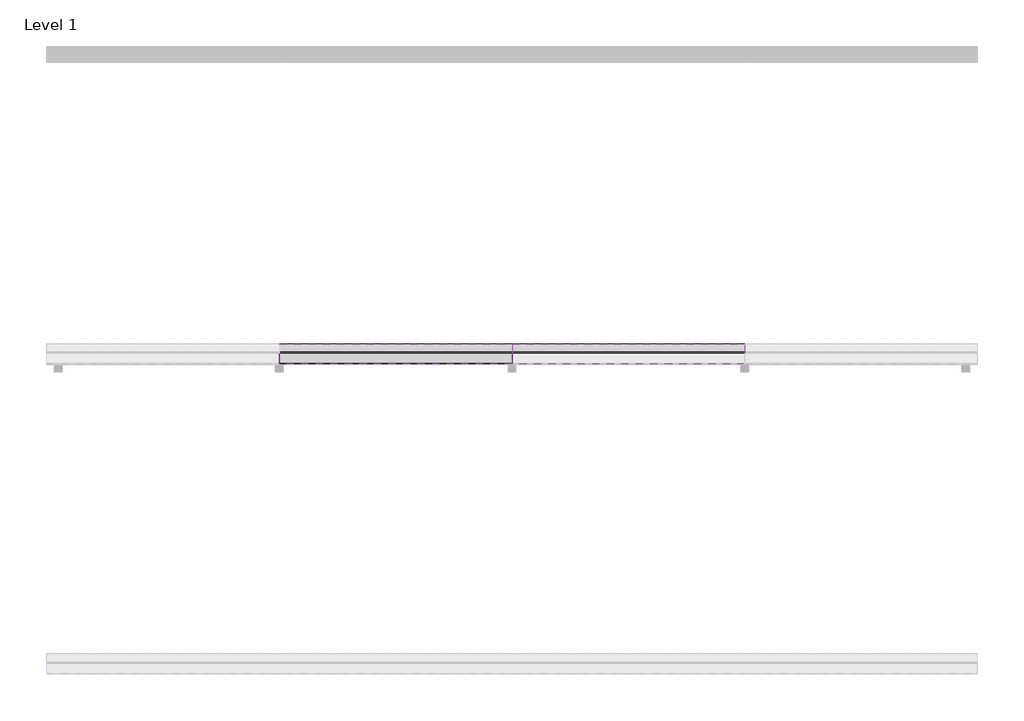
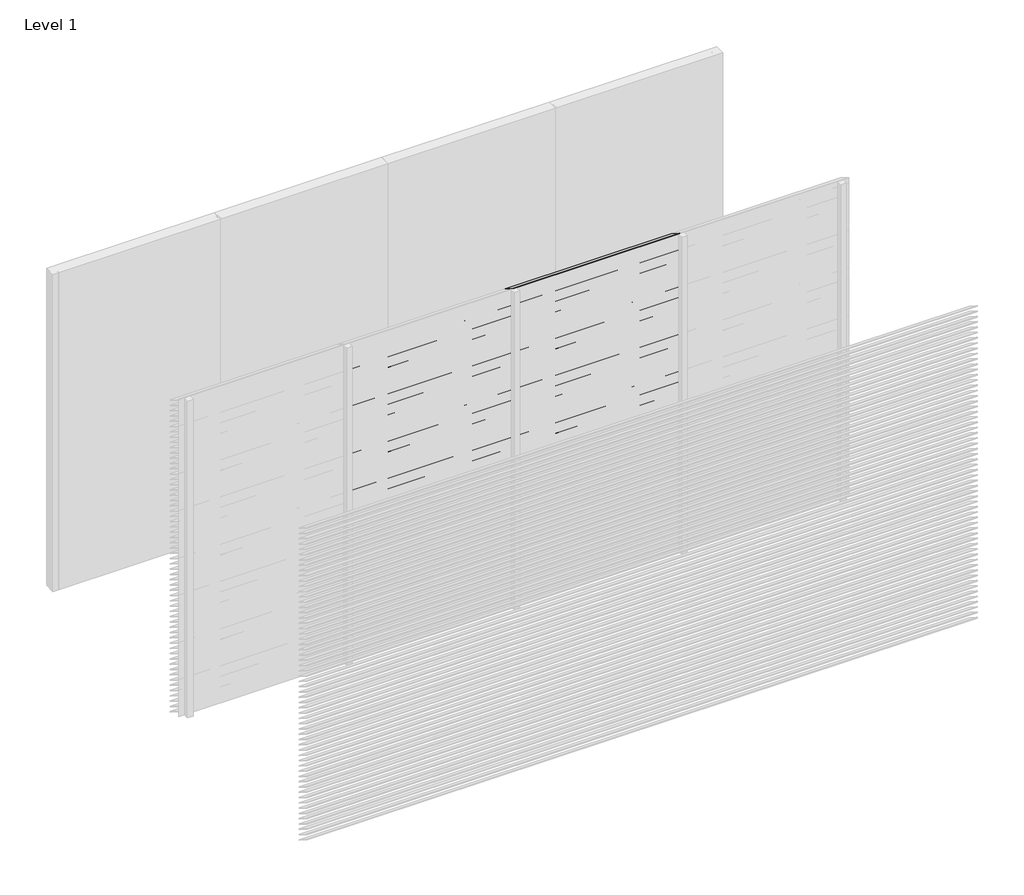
# One storey, part 6 of 13: 95 proxies.
"""IFC4 building model written with IfcOpenShell, lengths in millimetres."""

import ifcopenshell
import ifcopenshell.guid

model = None  # the IFC model being written
_history = None  # IfcOwnerHistory: only IFC2X3 demands one
_inside = {}  # id of a spatial element -> (the spatial element, [elements in it])
_under = {}  # id of a project, library or spatial element -> (it, [spatial elements below it])
_declared = {}  # id of a project -> (the project, [libraries it declares])
_typed = {}  # id of a type object -> (the type object, [elements of that type])
_made_of = {}  # id of a material, layer set ... -> (it, [elements and type objects made of it])


def new_model(schema):
    """Start an empty IFC model of exactly this schema.

    Asked for "IFC4X3", IfcOpenShell would pick the latest addendum, in which some entities
    have other attributes; the version numbers below select the first issue.
    IFC2X3 requires an IfcOwnerHistory on every rooted entity: one is made here for all.
    """
    global model, _history
    if schema == "IFC4X3":
        model = ifcopenshell.file(schema_version=(4, 3, 0, 0))
    else:
        model = ifcopenshell.file(schema=schema)
    _inside.clear()
    _under.clear()
    _declared.clear()
    _typed.clear()
    _made_of.clear()
    _history = None
    if model.schema == "IFC2X3":
        org = make("IfcOrganization", Name="unknown")
        user = make(
            "IfcPersonAndOrganization",
            ThePerson=make("IfcPerson", FamilyName="unknown"),
            TheOrganization=org,
        )
        app = make(
            "IfcApplication",
            ApplicationDeveloper=org,
            Version="unknown",
            ApplicationFullName="unknown",
            ApplicationIdentifier="unknown",
        )
        _history = make(
            "IfcOwnerHistory",
            OwningUser=user,
            OwningApplication=app,
            ChangeAction="ADDED",
            CreationDate=0,
        )
    return model


def make(cls, **values):
    """One entity of the class cls with the attributes given. An attribute that is None is left unset."""
    return model.create_entity(
        cls, **{name: value for name, value in values.items() if value is not None}
    )


def rooted(cls, **values):
    """An entity with a GlobalId (a new one), such as an element, a storey or a relation."""
    return make(cls, GlobalId=ifcopenshell.guid.new(), OwnerHistory=_history, **values)


def si_unit(unit_type, name, prefix=None):
    """IfcSIUnit, for example si_unit("LENGTHUNIT", "METRE", prefix="MILLI")."""
    return make("IfcSIUnit", UnitType=unit_type, Prefix=prefix, Name=name)


def assignment(units):
    """IfcUnitAssignment: the units of a project."""
    return None if units is None else make("IfcUnitAssignment", Units=units)


def point(xyz):
    """IfcCartesianPoint."""
    return None if xyz is None else make("IfcCartesianPoint", Coordinates=xyz)


def direction(xyz):
    """IfcDirection."""
    return None if xyz is None else make("IfcDirection", DirectionRatios=xyz)


def frame(location, z_axis=None, x_axis=None):
    """IfcAxis2Placement3D, a coordinate frame: its origin and axes. An axis left out is left unset."""
    return make(
        "IfcAxis2Placement3D",
        Location=point(location),
        Axis=direction(z_axis),
        RefDirection=direction(x_axis),
    )


def origin():
    """The frame at (0, 0, 0) with its axes left unset."""
    return frame((0.0, 0.0, 0.0))


def place(relative_to, where):
    """IfcLocalPlacement: puts the frame where relative to a parent placement (None: the world)."""
    return make(
        "IfcLocalPlacement", PlacementRelTo=relative_to, RelativePlacement=where
    )


def context(
    kind, dimensions, precision=None, world=None, true_north=None, identifier=None
):
    """IfcGeometricRepresentationContext, for example the 3D "Model" context."""
    return make(
        "IfcGeometricRepresentationContext",
        ContextIdentifier=identifier,
        ContextType=kind,
        CoordinateSpaceDimension=dimensions,
        Precision=precision,
        WorldCoordinateSystem=world,
        TrueNorth=true_north,
    )


def project(units=None, contexts=None):
    """IfcProject with its units and contexts."""
    return rooted(
        "IfcProject",
        Name="project",
        RepresentationContexts=contexts,
        UnitsInContext=assignment(units),
    )


def spatial(cls, under=None, at=None, **own):
    """A site, building, storey or space (cls), placed at a placement, below another one or the project."""
    s = rooted(cls, ObjectPlacement=at, **own)
    if under is not None:
        _under.setdefault(under.id(), (under, []))[1].append(s)
    return s


def polyline(points):
    """IfcPolyline through the points."""
    return make("IfcPolyline", Points=[point(p) for p in points])


def outline(outer, holes=None, kind="AREA"):
    """IfcArbitraryClosedProfileDef: a profile drawn as a closed curve; with holes, ...WithVoids."""
    if holes is None:
        return make("IfcArbitraryClosedProfileDef", ProfileType=kind, OuterCurve=outer)
    return make(
        "IfcArbitraryProfileDefWithVoids",
        ProfileType=kind,
        OuterCurve=outer,
        InnerCurves=holes,
    )


def extrude(swept, where, along, depth):
    """IfcExtrudedAreaSolid: the profile swept, set in the frame where, extruded along a direction by depth."""
    return make(
        "IfcExtrudedAreaSolid",
        SweptArea=swept,
        Position=where,
        ExtrudedDirection=direction(along),
        Depth=depth,
    )


def shape(context_of_items, identifier, shape_type, items):
    """IfcShapeRepresentation: the items that make up one representation, for example the "Body"."""
    return make(
        "IfcShapeRepresentation",
        ContextOfItems=context_of_items,
        RepresentationIdentifier=identifier,
        RepresentationType=shape_type,
        Items=items,
    )


def made_of(thing, what):
    """Note that an element or type object is made of a material, layer set ...; save() writes the relation."""
    if what is not None:
        _made_of.setdefault(what.id(), (what, []))[1].append(thing)
    return thing


def element(
    cls,
    number,
    at=None,
    inside=None,
    cuts=None,
    type_object=None,
    material=None,
    context=None,
    identifier="Body",
    shape_type=None,
    held_by="IfcProductDefinitionShape",
    body=None,
    shapes=None,
    **own,
):
    """One element of the class cls, such as IfcWall. Its Tag is "e" and its number.

    at: its placement. inside: the storey or other place that contains it. cuts: it is an
    opening in that element (IfcRelVoidsElement). A single representation is given by context,
    identifier, shape_type and body (its items); several are given by shapes. held_by: the class
    of the entity that holds the representations. save() writes the other relations.
    """
    e = rooted(cls, Tag="e%d" % number, ObjectPlacement=at, **own)
    if body is not None:
        shapes = [shape(context, identifier, shape_type, body)]
    if shapes is not None:
        e.Representation = make(held_by, Representations=shapes)
    if inside is not None:
        _inside.setdefault(inside.id(), (inside, []))[1].append(e)
    if cuts is not None:
        rooted(
            "IfcRelVoidsElement", RelatingBuildingElement=cuts, RelatedOpeningElement=e
        )
    if type_object is not None:
        _typed.setdefault(type_object.id(), (type_object, []))[1].append(e)
    return made_of(e, material)


def aggregate(whole, parts):
    """IfcRelAggregates: a whole, such as a stair, and the parts it consists of."""
    return rooted("IfcRelAggregates", RelatingObject=whole, RelatedObjects=parts)


def save(model, path):
    """Write the relations noted so far, then the file.

    IfcRelAggregates (storeys below a building ...), IfcRelContainedInSpatialStructure (elements
    in a storey), IfcRelDefinesByType, IfcRelAssociatesMaterial and IfcRelDeclares: one each for
    every whole, place, type object, material and project.
    """
    for whole, parts in _under.values():
        aggregate(whole, parts)
    for where, things in _inside.values():
        rooted(
            "IfcRelContainedInSpatialStructure",
            RelatedElements=things,
            RelatingStructure=where,
        )
    for kind, things in _typed.values():
        rooted("IfcRelDefinesByType", RelatedObjects=things, RelatingType=kind)
    for what, things in _made_of.values():
        rooted("IfcRelAssociatesMaterial", RelatedObjects=things, RelatingMaterial=what)
    for by, libraries in _declared.values():
        rooted("IfcRelDeclares", RelatingContext=by, RelatedDefinitions=libraries)
    model.write(path)


model = new_model("IFC4")

# Units and contexts
model_context = context("Model", 3, world=origin())
ifc_project = project(units=[si_unit("LENGTHUNIT", "METRE", prefix="MILLI")], contexts=[model_context])

# Site, building, storey
site = spatial("IfcSite", under=ifc_project)
building = spatial("IfcBuilding", under=site)
storey = spatial("IfcBuildingStorey", under=building, Name="Level 1", Elevation=0.0)

# Proxies
placement = place(None, origin())
element("IfcBuildingElementProxy", 1, Name="Wall Sweeps", at=placement, inside=storey, context=model_context, shape_type="SweptSolid", body=[
    extrude(outline(polyline([(-11995.0, 2950.0), (-11995.0, 2948.0), (-11868.0, 2869.0), (-11868.0, 2863.0), (-11997.0, 2943.2440945), (-11997.0, 2950.0), (-11995.0, 2950.0)])), frame((1500.0, 0.0, 0.0), z_axis=(1.0, 0.0, 0.0), x_axis=(0.0, 1.0, 0.0)), (0.0, 0.0, 1.0), 1500.0),
])
element("IfcBuildingElementProxy", 2, Name="Wall Sweeps", at=placement, inside=storey, context=model_context, shape_type="SweptSolid", body=[
    extrude(outline(polyline([(-11995.0, 2900.0), (-11995.0, 2898.0), (-11868.0, 2819.0), (-11868.0, 2813.0), (-11997.0, 2893.2440945), (-11997.0, 2900.0), (-11995.0, 2900.0)])), frame((1500.0, 0.0, 0.0), z_axis=(1.0, 0.0, 0.0), x_axis=(0.0, 1.0, 0.0)), (0.0, 0.0, 1.0), 1500.0),
])
element("IfcBuildingElementProxy", 3, Name="Wall Sweeps", at=placement, inside=storey, context=model_context, shape_type="SweptSolid", body=[
    extrude(outline(polyline([(-11995.0, 2850.0), (-11995.0, 2848.0), (-11868.0, 2769.0), (-11868.0, 2763.0), (-11997.0, 2843.2440945), (-11997.0, 2850.0), (-11995.0, 2850.0)])), frame((1500.0, 0.0, 0.0), z_axis=(1.0, 0.0, 0.0), x_axis=(0.0, 1.0, 0.0)), (0.0, 0.0, 1.0), 1500.0),
])
element("IfcBuildingElementProxy", 4, Name="Wall Sweeps", at=placement, inside=storey, context=model_context, shape_type="SweptSolid", body=[
    extrude(outline(polyline([(-11995.0, 2800.0), (-11995.0, 2798.0), (-11868.0, 2719.0), (-11868.0, 2713.0), (-11997.0, 2793.2440945), (-11997.0, 2800.0), (-11995.0, 2800.0)])), frame((1500.0, 0.0, 0.0), z_axis=(1.0, 0.0, 0.0), x_axis=(0.0, 1.0, 0.0)), (0.0, 0.0, 1.0), 1500.0),
])
element("IfcBuildingElementProxy", 5, Name="Wall Sweeps", at=placement, inside=storey, context=model_context, shape_type="SweptSolid", body=[
    extrude(outline(polyline([(-11995.0, 2750.0), (-11995.0, 2748.0), (-11868.0, 2669.0), (-11868.0, 2663.0), (-11997.0, 2743.2440945), (-11997.0, 2750.0), (-11995.0, 2750.0)])), frame((1500.0, 0.0, 0.0), z_axis=(1.0, 0.0, 0.0), x_axis=(0.0, 1.0, 0.0)), (0.0, 0.0, 1.0), 1500.0),
])
element("IfcBuildingElementProxy", 6, Name="Wall Sweeps", at=placement, inside=storey, context=model_context, shape_type="SweptSolid", body=[
    extrude(outline(polyline([(-11995.0, 2700.0), (-11995.0, 2698.0), (-11868.0, 2619.0), (-11868.0, 2613.0), (-11997.0, 2693.2440945), (-11997.0, 2700.0), (-11995.0, 2700.0)])), frame((1500.0, 0.0, 0.0), z_axis=(1.0, 0.0, 0.0), x_axis=(0.0, 1.0, 0.0)), (0.0, 0.0, 1.0), 1500.0),
])
element("IfcBuildingElementProxy", 7, Name="Wall Sweeps", at=placement, inside=storey, context=model_context, shape_type="SweptSolid", body=[
    extrude(outline(polyline([(-11995.0, 2650.0), (-11995.0, 2648.0), (-11868.0, 2569.0), (-11868.0, 2563.0), (-11997.0, 2643.2440945), (-11997.0, 2650.0), (-11995.0, 2650.0)])), frame((1500.0, 0.0, 0.0), z_axis=(1.0, 0.0, 0.0), x_axis=(0.0, 1.0, 0.0)), (0.0, 0.0, 1.0), 1500.0),
])
element("IfcBuildingElementProxy", 8, Name="Wall Sweeps", at=placement, inside=storey, context=model_context, shape_type="SweptSolid", body=[
    extrude(outline(polyline([(-11995.0, 2600.0), (-11995.0, 2598.0), (-11868.0, 2519.0), (-11868.0, 2513.0), (-11997.0, 2593.2440945), (-11997.0, 2600.0), (-11995.0, 2600.0)])), frame((1500.0, 0.0, 0.0), z_axis=(1.0, 0.0, 0.0), x_axis=(0.0, 1.0, 0.0)), (0.0, 0.0, 1.0), 1500.0),
])
element("IfcBuildingElementProxy", 9, Name="Wall Sweeps", at=placement, inside=storey, context=model_context, shape_type="SweptSolid", body=[
    extrude(outline(polyline([(-11995.0, 2550.0), (-11995.0, 2548.0), (-11868.0, 2469.0), (-11868.0, 2463.0), (-11997.0, 2543.2440945), (-11997.0, 2550.0), (-11995.0, 2550.0)])), frame((1500.0, 0.0, 0.0), z_axis=(1.0, 0.0, 0.0), x_axis=(0.0, 1.0, 0.0)), (0.0, 0.0, 1.0), 1500.0),
])
element("IfcBuildingElementProxy", 10, Name="Wall Sweeps", at=placement, inside=storey, context=model_context, shape_type="SweptSolid", body=[
    extrude(outline(polyline([(-11995.0, 2500.0), (-11995.0, 2498.0), (-11868.0, 2419.0), (-11868.0, 2413.0), (-11997.0, 2493.2440945), (-11997.0, 2500.0), (-11995.0, 2500.0)])), frame((1500.0, 0.0, 0.0), z_axis=(1.0, 0.0, 0.0), x_axis=(0.0, 1.0, 0.0)), (0.0, 0.0, 1.0), 1500.0),
])
element("IfcBuildingElementProxy", 11, Name="Wall Sweeps", at=placement, inside=storey, context=model_context, shape_type="SweptSolid", body=[
    extrude(outline(polyline([(-11995.0, 2450.0), (-11995.0, 2448.0), (-11868.0, 2369.0), (-11868.0, 2363.0), (-11997.0, 2443.2440945), (-11997.0, 2450.0), (-11995.0, 2450.0)])), frame((1500.0, 0.0, 0.0), z_axis=(1.0, 0.0, 0.0), x_axis=(0.0, 1.0, 0.0)), (0.0, 0.0, 1.0), 1500.0),
])
element("IfcBuildingElementProxy", 12, Name="Wall Sweeps", at=placement, inside=storey, context=model_context, shape_type="SweptSolid", body=[
    extrude(outline(polyline([(-11995.0, 2400.0), (-11995.0, 2398.0), (-11868.0, 2319.0), (-11868.0, 2313.0), (-11997.0, 2393.2440945), (-11997.0, 2400.0), (-11995.0, 2400.0)])), frame((1500.0, 0.0, 0.0), z_axis=(1.0, 0.0, 0.0), x_axis=(0.0, 1.0, 0.0)), (0.0, 0.0, 1.0), 1500.0),
])
element("IfcBuildingElementProxy", 13, Name="Wall Sweeps", at=placement, inside=storey, context=model_context, shape_type="SweptSolid", body=[
    extrude(outline(polyline([(-11995.0, 2350.0), (-11995.0, 2348.0), (-11868.0, 2269.0), (-11868.0, 2263.0), (-11997.0, 2343.2440945), (-11997.0, 2350.0), (-11995.0, 2350.0)])), frame((1500.0, 0.0, 0.0), z_axis=(1.0, 0.0, 0.0), x_axis=(0.0, 1.0, 0.0)), (0.0, 0.0, 1.0), 1500.0),
])
element("IfcBuildingElementProxy", 14, Name="Wall Sweeps", at=placement, inside=storey, context=model_context, shape_type="SweptSolid", body=[
    extrude(outline(polyline([(-11995.0, 2300.0), (-11995.0, 2298.0), (-11868.0, 2219.0), (-11868.0, 2213.0), (-11997.0, 2293.2440945), (-11997.0, 2300.0), (-11995.0, 2300.0)])), frame((1500.0, 0.0, 0.0), z_axis=(1.0, 0.0, 0.0), x_axis=(0.0, 1.0, 0.0)), (0.0, 0.0, 1.0), 1500.0),
])
element("IfcBuildingElementProxy", 15, Name="Wall Sweeps", at=placement, inside=storey, context=model_context, shape_type="SweptSolid", body=[
    extrude(outline(polyline([(-11995.0, 2250.0), (-11995.0, 2248.0), (-11868.0, 2169.0), (-11868.0, 2163.0), (-11997.0, 2243.2440945), (-11997.0, 2250.0), (-11995.0, 2250.0)])), frame((1500.0, 0.0, 0.0), z_axis=(1.0, 0.0, 0.0), x_axis=(0.0, 1.0, 0.0)), (0.0, 0.0, 1.0), 1500.0),
])
element("IfcBuildingElementProxy", 16, Name="Wall Sweeps", at=placement, inside=storey, context=model_context, shape_type="SweptSolid", body=[
    extrude(outline(polyline([(-11995.0, 2200.0), (-11995.0, 2198.0), (-11868.0, 2119.0), (-11868.0, 2113.0), (-11997.0, 2193.2440945), (-11997.0, 2200.0), (-11995.0, 2200.0)])), frame((1500.0, 0.0, 0.0), z_axis=(1.0, 0.0, 0.0), x_axis=(0.0, 1.0, 0.0)), (0.0, 0.0, 1.0), 1500.0),
])
element("IfcBuildingElementProxy", 17, Name="Wall Sweeps", at=placement, inside=storey, context=model_context, shape_type="SweptSolid", body=[
    extrude(outline(polyline([(-11995.0, 2150.0), (-11995.0, 2148.0), (-11868.0, 2069.0), (-11868.0, 2063.0), (-11997.0, 2143.2440945), (-11997.0, 2150.0), (-11995.0, 2150.0)])), frame((1500.0, 0.0, 0.0), z_axis=(1.0, 0.0, 0.0), x_axis=(0.0, 1.0, 0.0)), (0.0, 0.0, 1.0), 1500.0),
])
element("IfcBuildingElementProxy", 18, Name="Wall Sweeps", at=placement, inside=storey, context=model_context, shape_type="SweptSolid", body=[
    extrude(outline(polyline([(-11995.0, 2100.0), (-11995.0, 2098.0), (-11868.0, 2019.0), (-11868.0, 2013.0), (-11997.0, 2093.2440945), (-11997.0, 2100.0), (-11995.0, 2100.0)])), frame((1500.0, 0.0, 0.0), z_axis=(1.0, 0.0, 0.0), x_axis=(0.0, 1.0, 0.0)), (0.0, 0.0, 1.0), 1500.0),
])
element("IfcBuildingElementProxy", 19, Name="Wall Sweeps", at=placement, inside=storey, context=model_context, shape_type="SweptSolid", body=[
    extrude(outline(polyline([(-11995.0, 2050.0), (-11995.0, 2048.0), (-11868.0, 1969.0), (-11868.0, 1963.0), (-11997.0, 2043.2440945), (-11997.0, 2050.0), (-11995.0, 2050.0)])), frame((1500.0, 0.0, 0.0), z_axis=(1.0, 0.0, 0.0), x_axis=(0.0, 1.0, 0.0)), (0.0, 0.0, 1.0), 1500.0),
])
element("IfcBuildingElementProxy", 20, Name="Wall Sweeps", at=placement, inside=storey, context=model_context, shape_type="SweptSolid", body=[
    extrude(outline(polyline([(-11995.0, 2000.0), (-11995.0, 1998.0), (-11868.0, 1919.0), (-11868.0, 1913.0), (-11997.0, 1993.2440945), (-11997.0, 2000.0), (-11995.0, 2000.0)])), frame((1500.0, 0.0, 0.0), z_axis=(1.0, 0.0, 0.0), x_axis=(0.0, 1.0, 0.0)), (0.0, 0.0, 1.0), 1500.0),
])
element("IfcBuildingElementProxy", 21, Name="Wall Sweeps", at=placement, inside=storey, context=model_context, shape_type="SweptSolid", body=[
    extrude(outline(polyline([(-11995.0, 1950.0), (-11995.0, 1948.0), (-11868.0, 1869.0), (-11868.0, 1863.0), (-11997.0, 1943.2440945), (-11997.0, 1950.0), (-11995.0, 1950.0)])), frame((1500.0, 0.0, 0.0), z_axis=(1.0, 0.0, 0.0), x_axis=(0.0, 1.0, 0.0)), (0.0, 0.0, 1.0), 1500.0),
])
element("IfcBuildingElementProxy", 22, Name="Wall Sweeps", at=placement, inside=storey, context=model_context, shape_type="SweptSolid", body=[
    extrude(outline(polyline([(-11995.0, 1900.0), (-11995.0, 1898.0), (-11868.0, 1819.0), (-11868.0, 1813.0), (-11997.0, 1893.2440945), (-11997.0, 1900.0), (-11995.0, 1900.0)])), frame((1500.0, 0.0, 0.0), z_axis=(1.0, 0.0, 0.0), x_axis=(0.0, 1.0, 0.0)), (0.0, 0.0, 1.0), 1500.0),
])
element("IfcBuildingElementProxy", 23, Name="Wall Sweeps", at=placement, inside=storey, context=model_context, shape_type="SweptSolid", body=[
    extrude(outline(polyline([(-11995.0, 1850.0), (-11995.0, 1848.0), (-11868.0, 1769.0), (-11868.0, 1763.0), (-11997.0, 1843.2440945), (-11997.0, 1850.0), (-11995.0, 1850.0)])), frame((1500.0, 0.0, 0.0), z_axis=(1.0, 0.0, 0.0), x_axis=(0.0, 1.0, 0.0)), (0.0, 0.0, 1.0), 1500.0),
])
element("IfcBuildingElementProxy", 24, Name="Wall Sweeps", at=placement, inside=storey, context=model_context, shape_type="SweptSolid", body=[
    extrude(outline(polyline([(-11995.0, 1800.0), (-11995.0, 1798.0), (-11868.0, 1719.0), (-11868.0, 1713.0), (-11997.0, 1793.2440945), (-11997.0, 1800.0), (-11995.0, 1800.0)])), frame((1500.0, 0.0, 0.0), z_axis=(1.0, 0.0, 0.0), x_axis=(0.0, 1.0, 0.0)), (0.0, 0.0, 1.0), 1500.0),
])
element("IfcBuildingElementProxy", 25, Name="Wall Sweeps", at=placement, inside=storey, context=model_context, shape_type="SweptSolid", body=[
    extrude(outline(polyline([(-11995.0, 1750.0), (-11995.0, 1748.0), (-11868.0, 1669.0), (-11868.0, 1663.0), (-11997.0, 1743.2440945), (-11997.0, 1750.0), (-11995.0, 1750.0)])), frame((1500.0, 0.0, 0.0), z_axis=(1.0, 0.0, 0.0), x_axis=(0.0, 1.0, 0.0)), (0.0, 0.0, 1.0), 1500.0),
])
element("IfcBuildingElementProxy", 26, Name="Wall Sweeps", at=placement, inside=storey, context=model_context, shape_type="SweptSolid", body=[
    extrude(outline(polyline([(-11995.0, 1700.0), (-11995.0, 1698.0), (-11868.0, 1619.0), (-11868.0, 1613.0), (-11997.0, 1693.2440945), (-11997.0, 1700.0), (-11995.0, 1700.0)])), frame((1500.0, 0.0, 0.0), z_axis=(1.0, 0.0, 0.0), x_axis=(0.0, 1.0, 0.0)), (0.0, 0.0, 1.0), 1500.0),
])
element("IfcBuildingElementProxy", 27, Name="Wall Sweeps", at=placement, inside=storey, context=model_context, shape_type="SweptSolid", body=[
    extrude(outline(polyline([(-11995.0, 1650.0), (-11995.0, 1648.0), (-11868.0, 1569.0), (-11868.0, 1563.0), (-11997.0, 1643.2440945), (-11997.0, 1650.0), (-11995.0, 1650.0)])), frame((1500.0, 0.0, 0.0), z_axis=(1.0, 0.0, 0.0), x_axis=(0.0, 1.0, 0.0)), (0.0, 0.0, 1.0), 1500.0),
])
element("IfcBuildingElementProxy", 28, Name="Wall Sweeps", at=placement, inside=storey, context=model_context, shape_type="SweptSolid", body=[
    extrude(outline(polyline([(-11995.0, 1600.0), (-11995.0, 1598.0), (-11868.0, 1519.0), (-11868.0, 1513.0), (-11997.0, 1593.2440945), (-11997.0, 1600.0), (-11995.0, 1600.0)])), frame((1500.0, 0.0, 0.0), z_axis=(1.0, 0.0, 0.0), x_axis=(0.0, 1.0, 0.0)), (0.0, 0.0, 1.0), 1500.0),
])
element("IfcBuildingElementProxy", 29, Name="Wall Sweeps", at=placement, inside=storey, context=model_context, shape_type="SweptSolid", body=[
    extrude(outline(polyline([(-11995.0, 1550.0), (-11995.0, 1548.0), (-11868.0, 1469.0), (-11868.0, 1463.0), (-11997.0, 1543.2440945), (-11997.0, 1550.0), (-11995.0, 1550.0)])), frame((1500.0, 0.0, 0.0), z_axis=(1.0, 0.0, 0.0), x_axis=(0.0, 1.0, 0.0)), (0.0, 0.0, 1.0), 1500.0),
])
element("IfcBuildingElementProxy", 30, Name="Wall Sweeps", at=placement, inside=storey, context=model_context, shape_type="SweptSolid", body=[
    extrude(outline(polyline([(-11995.0, 1500.0), (-11995.0, 1498.0), (-11868.0, 1419.0), (-11868.0, 1413.0), (-11997.0, 1493.2440945), (-11997.0, 1500.0), (-11995.0, 1500.0)])), frame((1500.0, 0.0, 0.0), z_axis=(1.0, 0.0, 0.0), x_axis=(0.0, 1.0, 0.0)), (0.0, 0.0, 1.0), 1500.0),
])
element("IfcBuildingElementProxy", 31, Name="Wall Sweeps", at=placement, inside=storey, context=model_context, shape_type="SweptSolid", body=[
    extrude(outline(polyline([(-11995.0, 1450.0), (-11995.0, 1448.0), (-11868.0, 1369.0), (-11868.0, 1363.0), (-11997.0, 1443.2440945), (-11997.0, 1450.0), (-11995.0, 1450.0)])), frame((1500.0, 0.0, 0.0), z_axis=(1.0, 0.0, 0.0), x_axis=(0.0, 1.0, 0.0)), (0.0, 0.0, 1.0), 1500.0),
])
element("IfcBuildingElementProxy", 32, Name="Wall Sweeps", at=placement, inside=storey, context=model_context, shape_type="SweptSolid", body=[
    extrude(outline(polyline([(-11995.0, 1400.0), (-11995.0, 1398.0), (-11868.0, 1319.0), (-11868.0, 1313.0), (-11997.0, 1393.2440945), (-11997.0, 1400.0), (-11995.0, 1400.0)])), frame((1500.0, 0.0, 0.0), z_axis=(1.0, 0.0, 0.0), x_axis=(0.0, 1.0, 0.0)), (0.0, 0.0, 1.0), 1500.0),
])
element("IfcBuildingElementProxy", 33, Name="Wall Sweeps", at=placement, inside=storey, context=model_context, shape_type="SweptSolid", body=[
    extrude(outline(polyline([(-11995.0, 1350.0), (-11995.0, 1348.0), (-11868.0, 1269.0), (-11868.0, 1263.0), (-11997.0, 1343.2440945), (-11997.0, 1350.0), (-11995.0, 1350.0)])), frame((1500.0, 0.0, 0.0), z_axis=(1.0, 0.0, 0.0), x_axis=(0.0, 1.0, 0.0)), (0.0, 0.0, 1.0), 1500.0),
])
element("IfcBuildingElementProxy", 34, Name="Wall Sweeps", at=placement, inside=storey, context=model_context, shape_type="SweptSolid", body=[
    extrude(outline(polyline([(-11995.0, 1300.0), (-11995.0, 1298.0), (-11868.0, 1219.0), (-11868.0, 1213.0), (-11997.0, 1293.2440945), (-11997.0, 1300.0), (-11995.0, 1300.0)])), frame((1500.0, 0.0, 0.0), z_axis=(1.0, 0.0, 0.0), x_axis=(0.0, 1.0, 0.0)), (0.0, 0.0, 1.0), 1500.0),
])
element("IfcBuildingElementProxy", 35, Name="Wall Sweeps", at=placement, inside=storey, context=model_context, shape_type="SweptSolid", body=[
    extrude(outline(polyline([(-11995.0, 1250.0), (-11995.0, 1248.0), (-11868.0, 1169.0), (-11868.0, 1163.0), (-11997.0, 1243.2440945), (-11997.0, 1250.0), (-11995.0, 1250.0)])), frame((1500.0, 0.0, 0.0), z_axis=(1.0, 0.0, 0.0), x_axis=(0.0, 1.0, 0.0)), (0.0, 0.0, 1.0), 1500.0),
])
element("IfcBuildingElementProxy", 36, Name="Wall Sweeps", at=placement, inside=storey, context=model_context, shape_type="SweptSolid", body=[
    extrude(outline(polyline([(-11995.0, 1200.0), (-11995.0, 1198.0), (-11868.0, 1119.0), (-11868.0, 1113.0), (-11997.0, 1193.2440945), (-11997.0, 1200.0), (-11995.0, 1200.0)])), frame((1500.0, 0.0, 0.0), z_axis=(1.0, 0.0, 0.0), x_axis=(0.0, 1.0, 0.0)), (0.0, 0.0, 1.0), 1500.0),
])
element("IfcBuildingElementProxy", 37, Name="Wall Sweeps", at=placement, inside=storey, context=model_context, shape_type="SweptSolid", body=[
    extrude(outline(polyline([(-11995.0, 1150.0), (-11995.0, 1148.0), (-11868.0, 1069.0), (-11868.0, 1063.0), (-11997.0, 1143.2440945), (-11997.0, 1150.0), (-11995.0, 1150.0)])), frame((1500.0, 0.0, 0.0), z_axis=(1.0, 0.0, 0.0), x_axis=(0.0, 1.0, 0.0)), (0.0, 0.0, 1.0), 1500.0),
])
element("IfcBuildingElementProxy", 38, Name="Wall Sweeps", at=placement, inside=storey, context=model_context, shape_type="SweptSolid", body=[
    extrude(outline(polyline([(-11995.0, 1100.0), (-11995.0, 1098.0), (-11868.0, 1019.0), (-11868.0, 1013.0), (-11997.0, 1093.2440945), (-11997.0, 1100.0), (-11995.0, 1100.0)])), frame((1500.0, 0.0, 0.0), z_axis=(1.0, 0.0, 0.0), x_axis=(0.0, 1.0, 0.0)), (0.0, 0.0, 1.0), 1500.0),
])
element("IfcBuildingElementProxy", 39, Name="Wall Sweeps", at=placement, inside=storey, context=model_context, shape_type="SweptSolid", body=[
    extrude(outline(polyline([(-11995.0, 1050.0), (-11995.0, 1048.0), (-11868.0, 969.0), (-11868.0, 963.0), (-11997.0, 1043.2440945), (-11997.0, 1050.0), (-11995.0, 1050.0)])), frame((1500.0, 0.0, 0.0), z_axis=(1.0, 0.0, 0.0), x_axis=(0.0, 1.0, 0.0)), (0.0, 0.0, 1.0), 1500.0),
])
element("IfcBuildingElementProxy", 40, Name="Wall Sweeps", at=placement, inside=storey, context=model_context, shape_type="SweptSolid", body=[
    extrude(outline(polyline([(-11995.0, 1000.0), (-11995.0, 998.0), (-11868.0, 919.0), (-11868.0, 913.0), (-11997.0, 993.2440945), (-11997.0, 1000.0), (-11995.0, 1000.0)])), frame((1500.0, 0.0, 0.0), z_axis=(1.0, 0.0, 0.0), x_axis=(0.0, 1.0, 0.0)), (0.0, 0.0, 1.0), 1500.0),
])
element("IfcBuildingElementProxy", 41, Name="Wall Sweeps", at=placement, inside=storey, context=model_context, shape_type="SweptSolid", body=[
    extrude(outline(polyline([(-11995.0, 950.0), (-11995.0, 948.0), (-11868.0, 869.0), (-11868.0, 863.0), (-11997.0, 943.2440945), (-11997.0, 950.0), (-11995.0, 950.0)])), frame((1500.0, 0.0, 0.0), z_axis=(1.0, 0.0, 0.0), x_axis=(0.0, 1.0, 0.0)), (0.0, 0.0, 1.0), 1500.0),
])
element("IfcBuildingElementProxy", 42, Name="Wall Sweeps", at=placement, inside=storey, context=model_context, shape_type="SweptSolid", body=[
    extrude(outline(polyline([(-11995.0, 900.0), (-11995.0, 898.0), (-11868.0, 819.0), (-11868.0, 813.0), (-11997.0, 893.2440945), (-11997.0, 900.0), (-11995.0, 900.0)])), frame((1500.0, 0.0, 0.0), z_axis=(1.0, 0.0, 0.0), x_axis=(0.0, 1.0, 0.0)), (0.0, 0.0, 1.0), 1500.0),
])
element("IfcBuildingElementProxy", 43, Name="Wall Sweeps", at=placement, inside=storey, context=model_context, shape_type="SweptSolid", body=[
    extrude(outline(polyline([(-11995.0, 850.0), (-11995.0, 848.0), (-11868.0, 769.0), (-11868.0, 763.0), (-11997.0, 843.2440945), (-11997.0, 850.0), (-11995.0, 850.0)])), frame((1500.0, 0.0, 0.0), z_axis=(1.0, 0.0, 0.0), x_axis=(0.0, 1.0, 0.0)), (0.0, 0.0, 1.0), 1500.0),
])
element("IfcBuildingElementProxy", 44, Name="Wall Sweeps", at=placement, inside=storey, context=model_context, shape_type="SweptSolid", body=[
    extrude(outline(polyline([(-11995.0, 800.0), (-11995.0, 798.0), (-11868.0, 719.0), (-11868.0, 713.0), (-11997.0, 793.2440945), (-11997.0, 800.0), (-11995.0, 800.0)])), frame((1500.0, 0.0, 0.0), z_axis=(1.0, 0.0, 0.0), x_axis=(0.0, 1.0, 0.0)), (0.0, 0.0, 1.0), 1500.0),
])
element("IfcBuildingElementProxy", 45, Name="Wall Sweeps", at=placement, inside=storey, context=model_context, shape_type="SweptSolid", body=[
    extrude(outline(polyline([(-11995.0, 750.0), (-11995.0, 748.0), (-11868.0, 669.0), (-11868.0, 663.0), (-11997.0, 743.2440945), (-11997.0, 750.0), (-11995.0, 750.0)])), frame((1500.0, 0.0, 0.0), z_axis=(1.0, 0.0, 0.0), x_axis=(0.0, 1.0, 0.0)), (0.0, 0.0, 1.0), 1500.0),
])
element("IfcBuildingElementProxy", 46, Name="Wall Sweeps", at=placement, inside=storey, context=model_context, shape_type="SweptSolid", body=[
    extrude(outline(polyline([(-11995.0, 700.0), (-11995.0, 698.0), (-11868.0, 619.0), (-11868.0, 613.0), (-11997.0, 693.2440945), (-11997.0, 700.0), (-11995.0, 700.0)])), frame((1500.0, 0.0, 0.0), z_axis=(1.0, 0.0, 0.0), x_axis=(0.0, 1.0, 0.0)), (0.0, 0.0, 1.0), 1500.0),
])
element("IfcBuildingElementProxy", 47, Name="Wall Sweeps", at=placement, inside=storey, context=model_context, shape_type="SweptSolid", body=[
    extrude(outline(polyline([(-11995.0, 650.0), (-11995.0, 648.0), (-11868.0, 569.0), (-11868.0, 563.0), (-11997.0, 643.2440945), (-11997.0, 650.0), (-11995.0, 650.0)])), frame((1500.0, 0.0, 0.0), z_axis=(1.0, 0.0, 0.0), x_axis=(0.0, 1.0, 0.0)), (0.0, 0.0, 1.0), 1500.0),
])
element("IfcBuildingElementProxy", 48, Name="Wall Sweeps", at=placement, inside=storey, context=model_context, shape_type="SweptSolid", body=[
    extrude(outline(polyline([(-11995.0, 600.0), (-11995.0, 598.0), (-11868.0, 519.0), (-11868.0, 513.0), (-11997.0, 593.2440945), (-11997.0, 600.0), (-11995.0, 600.0)])), frame((1500.0, 0.0, 0.0), z_axis=(1.0, 0.0, 0.0), x_axis=(0.0, 1.0, 0.0)), (0.0, 0.0, 1.0), 1500.0),
])
element("IfcBuildingElementProxy", 49, Name="Wall Sweeps", at=placement, inside=storey, context=model_context, shape_type="SweptSolid", body=[
    extrude(outline(polyline([(-11995.0, 550.0), (-11995.0, 548.0), (-11868.0, 469.0), (-11868.0, 463.0), (-11997.0, 543.2440945), (-11997.0, 550.0), (-11995.0, 550.0)])), frame((1500.0, 0.0, 0.0), z_axis=(1.0, 0.0, 0.0), x_axis=(0.0, 1.0, 0.0)), (0.0, 0.0, 1.0), 1500.0),
])
element("IfcBuildingElementProxy", 50, Name="Wall Sweeps", at=placement, inside=storey, context=model_context, shape_type="SweptSolid", body=[
    extrude(outline(polyline([(-11995.0, 500.0), (-11995.0, 498.0), (-11868.0, 419.0), (-11868.0, 413.0), (-11997.0, 493.2440945), (-11997.0, 500.0), (-11995.0, 500.0)])), frame((1500.0, 0.0, 0.0), z_axis=(1.0, 0.0, 0.0), x_axis=(0.0, 1.0, 0.0)), (0.0, 0.0, 1.0), 1500.0),
])
element("IfcBuildingElementProxy", 51, Name="Wall Sweeps", at=placement, inside=storey, context=model_context, shape_type="SweptSolid", body=[
    extrude(outline(polyline([(-11995.0, 450.0), (-11995.0, 448.0), (-11868.0, 369.0), (-11868.0, 363.0), (-11997.0, 443.2440945), (-11997.0, 450.0), (-11995.0, 450.0)])), frame((1500.0, 0.0, 0.0), z_axis=(1.0, 0.0, 0.0), x_axis=(0.0, 1.0, 0.0)), (0.0, 0.0, 1.0), 1500.0),
])
element("IfcBuildingElementProxy", 52, Name="Wall Sweeps", at=placement, inside=storey, context=model_context, shape_type="SweptSolid", body=[
    extrude(outline(polyline([(-11995.0, 400.0), (-11995.0, 398.0), (-11868.0, 319.0), (-11868.0, 313.0), (-11997.0, 393.2440945), (-11997.0, 400.0), (-11995.0, 400.0)])), frame((1500.0, 0.0, 0.0), z_axis=(1.0, 0.0, 0.0), x_axis=(0.0, 1.0, 0.0)), (0.0, 0.0, 1.0), 1500.0),
])
element("IfcBuildingElementProxy", 53, Name="Wall Sweeps", at=placement, inside=storey, context=model_context, shape_type="SweptSolid", body=[
    extrude(outline(polyline([(-11995.0, 350.0), (-11995.0, 348.0), (-11868.0, 269.0), (-11868.0, 263.0), (-11997.0, 343.2440945), (-11997.0, 350.0), (-11995.0, 350.0)])), frame((1500.0, 0.0, 0.0), z_axis=(1.0, 0.0, 0.0), x_axis=(0.0, 1.0, 0.0)), (0.0, 0.0, 1.0), 1500.0),
])
element("IfcBuildingElementProxy", 54, Name="Wall Sweeps", at=placement, inside=storey, context=model_context, shape_type="SweptSolid", body=[
    extrude(outline(polyline([(-11995.0, 300.0), (-11995.0, 298.0), (-11868.0, 219.0), (-11868.0, 213.0), (-11997.0, 293.2440945), (-11997.0, 300.0), (-11995.0, 300.0)])), frame((1500.0, 0.0, 0.0), z_axis=(1.0, 0.0, 0.0), x_axis=(0.0, 1.0, 0.0)), (0.0, 0.0, 1.0), 1500.0),
])
element("IfcBuildingElementProxy", 55, Name="Wall Sweeps", at=placement, inside=storey, context=model_context, shape_type="SweptSolid", body=[
    extrude(outline(polyline([(-11995.0, 250.0), (-11995.0, 248.0), (-11868.0, 169.0), (-11868.0, 163.0), (-11997.0, 243.2440945), (-11997.0, 250.0), (-11995.0, 250.0)])), frame((1500.0, 0.0, 0.0), z_axis=(1.0, 0.0, 0.0), x_axis=(0.0, 1.0, 0.0)), (0.0, 0.0, 1.0), 1500.0),
])
element("IfcBuildingElementProxy", 56, Name="Wall Sweeps", at=placement, inside=storey, context=model_context, shape_type="SweptSolid", body=[
    extrude(outline(polyline([(-11995.0, 200.0), (-11995.0, 198.0), (-11868.0, 119.0), (-11868.0, 113.0), (-11997.0, 193.2440945), (-11997.0, 200.0), (-11995.0, 200.0)])), frame((1500.0, 0.0, 0.0), z_axis=(1.0, 0.0, 0.0), x_axis=(0.0, 1.0, 0.0)), (0.0, 0.0, 1.0), 1500.0),
])
element("IfcBuildingElementProxy", 57, Name="Wall Sweeps", at=placement, inside=storey, context=model_context, shape_type="SweptSolid", body=[
    extrude(outline(polyline([(-11995.0, 150.0), (-11995.0, 148.0), (-11868.0, 69.0), (-11868.0, 63.0), (-11997.0, 143.2440945), (-11997.0, 150.0), (-11995.0, 150.0)])), frame((1500.0, 0.0, 0.0), z_axis=(1.0, 0.0, 0.0), x_axis=(0.0, 1.0, 0.0)), (0.0, 0.0, 1.0), 1500.0),
])
element("IfcBuildingElementProxy", 58, Name="Wall Sweeps", at=placement, inside=storey, context=model_context, shape_type="SweptSolid", body=[
    extrude(outline(polyline([(-11995.0, 100.0), (-11995.0, 98.0), (-11868.0, 19.0), (-11868.0, 13.0), (-11997.0, 93.2440945), (-11997.0, 100.0), (-11995.0, 100.0)])), frame((1500.0, 0.0, 0.0), z_axis=(1.0, 0.0, 0.0), x_axis=(0.0, 1.0, 0.0)), (0.0, 0.0, 1.0), 1500.0),
])
element("IfcBuildingElementProxy", 59, Name="Wall Sweeps", at=placement, inside=storey, context=model_context, shape_type="SweptSolid", body=[
    extrude(outline(polyline([(-11995.0, 50.0), (-11995.0, 48.0), (-11868.0, -31.0), (-11868.0, -37.0), (-11997.0, 43.2440945), (-11997.0, 50.0), (-11995.0, 50.0)])), frame((1500.0, 0.0, 0.0), z_axis=(1.0, 0.0, 0.0), x_axis=(0.0, 1.0, 0.0)), (0.0, 0.0, 1.0), 1500.0),
])
element("IfcBuildingElementProxy", 60, Name="Wall Sweeps", at=placement, inside=storey, context=model_context, shape_type="SweptSolid", body=[
    extrude(outline(polyline([(-11995.0, 3000.0), (-11995.0, 2998.0), (-11868.0, 2919.0), (-11868.0, 2913.0), (-11997.0, 2993.2440945), (-11997.0, 3000.0), (-11995.0, 3000.0)])), frame((3000.0, 0.0, 0.0), z_axis=(1.0, 0.0, 0.0), x_axis=(0.0, 1.0, 0.0)), (0.0, 0.0, 1.0), 1500.0),
])
element("IfcBuildingElementProxy", 61, Name="Wall Sweeps", at=placement, inside=storey, context=model_context, shape_type="SweptSolid", body=[
    extrude(outline(polyline([(-11995.0, 2950.0), (-11995.0, 2948.0), (-11868.0, 2869.0), (-11868.0, 2863.0), (-11997.0, 2943.2440945), (-11997.0, 2950.0), (-11995.0, 2950.0)])), frame((3000.0, 0.0, 0.0), z_axis=(1.0, 0.0, 0.0), x_axis=(0.0, 1.0, 0.0)), (0.0, 0.0, 1.0), 1500.0),
])
element("IfcBuildingElementProxy", 62, Name="Wall Sweeps", at=placement, inside=storey, context=model_context, shape_type="SweptSolid", body=[
    extrude(outline(polyline([(-11995.0, 2900.0), (-11995.0, 2898.0), (-11868.0, 2819.0), (-11868.0, 2813.0), (-11997.0, 2893.2440945), (-11997.0, 2900.0), (-11995.0, 2900.0)])), frame((3000.0, 0.0, 0.0), z_axis=(1.0, 0.0, 0.0), x_axis=(0.0, 1.0, 0.0)), (0.0, 0.0, 1.0), 1500.0),
])
element("IfcBuildingElementProxy", 63, Name="Wall Sweeps", at=placement, inside=storey, context=model_context, shape_type="SweptSolid", body=[
    extrude(outline(polyline([(-11995.0, 2850.0), (-11995.0, 2848.0), (-11868.0, 2769.0), (-11868.0, 2763.0), (-11997.0, 2843.2440945), (-11997.0, 2850.0), (-11995.0, 2850.0)])), frame((3000.0, 0.0, 0.0), z_axis=(1.0, 0.0, 0.0), x_axis=(0.0, 1.0, 0.0)), (0.0, 0.0, 1.0), 1500.0),
])
element("IfcBuildingElementProxy", 64, Name="Wall Sweeps", at=placement, inside=storey, context=model_context, shape_type="SweptSolid", body=[
    extrude(outline(polyline([(-11995.0, 2800.0), (-11995.0, 2798.0), (-11868.0, 2719.0), (-11868.0, 2713.0), (-11997.0, 2793.2440945), (-11997.0, 2800.0), (-11995.0, 2800.0)])), frame((3000.0, 0.0, 0.0), z_axis=(1.0, 0.0, 0.0), x_axis=(0.0, 1.0, 0.0)), (0.0, 0.0, 1.0), 1500.0),
])
element("IfcBuildingElementProxy", 65, Name="Wall Sweeps", at=placement, inside=storey, context=model_context, shape_type="SweptSolid", body=[
    extrude(outline(polyline([(-11995.0, 2750.0), (-11995.0, 2748.0), (-11868.0, 2669.0), (-11868.0, 2663.0), (-11997.0, 2743.2440945), (-11997.0, 2750.0), (-11995.0, 2750.0)])), frame((3000.0, 0.0, 0.0), z_axis=(1.0, 0.0, 0.0), x_axis=(0.0, 1.0, 0.0)), (0.0, 0.0, 1.0), 1500.0),
])
element("IfcBuildingElementProxy", 66, Name="Wall Sweeps", at=placement, inside=storey, context=model_context, shape_type="SweptSolid", body=[
    extrude(outline(polyline([(-11995.0, 2700.0), (-11995.0, 2698.0), (-11868.0, 2619.0), (-11868.0, 2613.0), (-11997.0, 2693.2440945), (-11997.0, 2700.0), (-11995.0, 2700.0)])), frame((3000.0, 0.0, 0.0), z_axis=(1.0, 0.0, 0.0), x_axis=(0.0, 1.0, 0.0)), (0.0, 0.0, 1.0), 1500.0),
])
element("IfcBuildingElementProxy", 67, Name="Wall Sweeps", at=placement, inside=storey, context=model_context, shape_type="SweptSolid", body=[
    extrude(outline(polyline([(-11995.0, 2650.0), (-11995.0, 2648.0), (-11868.0, 2569.0), (-11868.0, 2563.0), (-11997.0, 2643.2440945), (-11997.0, 2650.0), (-11995.0, 2650.0)])), frame((3000.0, 0.0, 0.0), z_axis=(1.0, 0.0, 0.0), x_axis=(0.0, 1.0, 0.0)), (0.0, 0.0, 1.0), 1500.0),
])
element("IfcBuildingElementProxy", 68, Name="Wall Sweeps", at=placement, inside=storey, context=model_context, shape_type="SweptSolid", body=[
    extrude(outline(polyline([(-11995.0, 2600.0), (-11995.0, 2598.0), (-11868.0, 2519.0), (-11868.0, 2513.0), (-11997.0, 2593.2440945), (-11997.0, 2600.0), (-11995.0, 2600.0)])), frame((3000.0, 0.0, 0.0), z_axis=(1.0, 0.0, 0.0), x_axis=(0.0, 1.0, 0.0)), (0.0, 0.0, 1.0), 1500.0),
])
element("IfcBuildingElementProxy", 69, Name="Wall Sweeps", at=placement, inside=storey, context=model_context, shape_type="SweptSolid", body=[
    extrude(outline(polyline([(-11995.0, 2550.0), (-11995.0, 2548.0), (-11868.0, 2469.0), (-11868.0, 2463.0), (-11997.0, 2543.2440945), (-11997.0, 2550.0), (-11995.0, 2550.0)])), frame((3000.0, 0.0, 0.0), z_axis=(1.0, 0.0, 0.0), x_axis=(0.0, 1.0, 0.0)), (0.0, 0.0, 1.0), 1500.0),
])
element("IfcBuildingElementProxy", 70, Name="Wall Sweeps", at=placement, inside=storey, context=model_context, shape_type="SweptSolid", body=[
    extrude(outline(polyline([(-11995.0, 2500.0), (-11995.0, 2498.0), (-11868.0, 2419.0), (-11868.0, 2413.0), (-11997.0, 2493.2440945), (-11997.0, 2500.0), (-11995.0, 2500.0)])), frame((3000.0, 0.0, 0.0), z_axis=(1.0, 0.0, 0.0), x_axis=(0.0, 1.0, 0.0)), (0.0, 0.0, 1.0), 1500.0),
])
element("IfcBuildingElementProxy", 71, Name="Wall Sweeps", at=placement, inside=storey, context=model_context, shape_type="SweptSolid", body=[
    extrude(outline(polyline([(-11995.0, 2450.0), (-11995.0, 2448.0), (-11868.0, 2369.0), (-11868.0, 2363.0), (-11997.0, 2443.2440945), (-11997.0, 2450.0), (-11995.0, 2450.0)])), frame((3000.0, 0.0, 0.0), z_axis=(1.0, 0.0, 0.0), x_axis=(0.0, 1.0, 0.0)), (0.0, 0.0, 1.0), 1500.0),
])
element("IfcBuildingElementProxy", 72, Name="Wall Sweeps", at=placement, inside=storey, context=model_context, shape_type="SweptSolid", body=[
    extrude(outline(polyline([(-11995.0, 2400.0), (-11995.0, 2398.0), (-11868.0, 2319.0), (-11868.0, 2313.0), (-11997.0, 2393.2440945), (-11997.0, 2400.0), (-11995.0, 2400.0)])), frame((3000.0, 0.0, 0.0), z_axis=(1.0, 0.0, 0.0), x_axis=(0.0, 1.0, 0.0)), (0.0, 0.0, 1.0), 1500.0),
])
element("IfcBuildingElementProxy", 73, Name="Wall Sweeps", at=placement, inside=storey, context=model_context, shape_type="SweptSolid", body=[
    extrude(outline(polyline([(-11995.0, 2350.0), (-11995.0, 2348.0), (-11868.0, 2269.0), (-11868.0, 2263.0), (-11997.0, 2343.2440945), (-11997.0, 2350.0), (-11995.0, 2350.0)])), frame((3000.0, 0.0, 0.0), z_axis=(1.0, 0.0, 0.0), x_axis=(0.0, 1.0, 0.0)), (0.0, 0.0, 1.0), 1500.0),
])
element("IfcBuildingElementProxy", 74, Name="Wall Sweeps", at=placement, inside=storey, context=model_context, shape_type="SweptSolid", body=[
    extrude(outline(polyline([(-11995.0, 2300.0), (-11995.0, 2298.0), (-11868.0, 2219.0), (-11868.0, 2213.0), (-11997.0, 2293.2440945), (-11997.0, 2300.0), (-11995.0, 2300.0)])), frame((3000.0, 0.0, 0.0), z_axis=(1.0, 0.0, 0.0), x_axis=(0.0, 1.0, 0.0)), (0.0, 0.0, 1.0), 1500.0),
])
element("IfcBuildingElementProxy", 75, Name="Wall Sweeps", at=placement, inside=storey, context=model_context, shape_type="SweptSolid", body=[
    extrude(outline(polyline([(-11995.0, 2250.0), (-11995.0, 2248.0), (-11868.0, 2169.0), (-11868.0, 2163.0), (-11997.0, 2243.2440945), (-11997.0, 2250.0), (-11995.0, 2250.0)])), frame((3000.0, 0.0, 0.0), z_axis=(1.0, 0.0, 0.0), x_axis=(0.0, 1.0, 0.0)), (0.0, 0.0, 1.0), 1500.0),
])
element("IfcBuildingElementProxy", 76, Name="Wall Sweeps", at=placement, inside=storey, context=model_context, shape_type="SweptSolid", body=[
    extrude(outline(polyline([(-11995.0, 2200.0), (-11995.0, 2198.0), (-11868.0, 2119.0), (-11868.0, 2113.0), (-11997.0, 2193.2440945), (-11997.0, 2200.0), (-11995.0, 2200.0)])), frame((3000.0, 0.0, 0.0), z_axis=(1.0, 0.0, 0.0), x_axis=(0.0, 1.0, 0.0)), (0.0, 0.0, 1.0), 1500.0),
])
element("IfcBuildingElementProxy", 77, Name="Wall Sweeps", at=placement, inside=storey, context=model_context, shape_type="SweptSolid", body=[
    extrude(outline(polyline([(-11995.0, 2150.0), (-11995.0, 2148.0), (-11868.0, 2069.0), (-11868.0, 2063.0), (-11997.0, 2143.2440945), (-11997.0, 2150.0), (-11995.0, 2150.0)])), frame((3000.0, 0.0, 0.0), z_axis=(1.0, 0.0, 0.0), x_axis=(0.0, 1.0, 0.0)), (0.0, 0.0, 1.0), 1500.0),
])
element("IfcBuildingElementProxy", 78, Name="Wall Sweeps", at=placement, inside=storey, context=model_context, shape_type="SweptSolid", body=[
    extrude(outline(polyline([(-11995.0, 2100.0), (-11995.0, 2098.0), (-11868.0, 2019.0), (-11868.0, 2013.0), (-11997.0, 2093.2440945), (-11997.0, 2100.0), (-11995.0, 2100.0)])), frame((3000.0, 0.0, 0.0), z_axis=(1.0, 0.0, 0.0), x_axis=(0.0, 1.0, 0.0)), (0.0, 0.0, 1.0), 1500.0),
])
element("IfcBuildingElementProxy", 79, Name="Wall Sweeps", at=placement, inside=storey, context=model_context, shape_type="SweptSolid", body=[
    extrude(outline(polyline([(-11995.0, 2050.0), (-11995.0, 2048.0), (-11868.0, 1969.0), (-11868.0, 1963.0), (-11997.0, 2043.2440945), (-11997.0, 2050.0), (-11995.0, 2050.0)])), frame((3000.0, 0.0, 0.0), z_axis=(1.0, 0.0, 0.0), x_axis=(0.0, 1.0, 0.0)), (0.0, 0.0, 1.0), 1500.0),
])
element("IfcBuildingElementProxy", 80, Name="Wall Sweeps", at=placement, inside=storey, context=model_context, shape_type="SweptSolid", body=[
    extrude(outline(polyline([(-11995.0, 2000.0), (-11995.0, 1998.0), (-11868.0, 1919.0), (-11868.0, 1913.0), (-11997.0, 1993.2440945), (-11997.0, 2000.0), (-11995.0, 2000.0)])), frame((3000.0, 0.0, 0.0), z_axis=(1.0, 0.0, 0.0), x_axis=(0.0, 1.0, 0.0)), (0.0, 0.0, 1.0), 1500.0),
])
element("IfcBuildingElementProxy", 81, Name="Wall Sweeps", at=placement, inside=storey, context=model_context, shape_type="SweptSolid", body=[
    extrude(outline(polyline([(-11995.0, 1950.0), (-11995.0, 1948.0), (-11868.0, 1869.0), (-11868.0, 1863.0), (-11997.0, 1943.2440945), (-11997.0, 1950.0), (-11995.0, 1950.0)])), frame((3000.0, 0.0, 0.0), z_axis=(1.0, 0.0, 0.0), x_axis=(0.0, 1.0, 0.0)), (0.0, 0.0, 1.0), 1500.0),
])
element("IfcBuildingElementProxy", 82, Name="Wall Sweeps", at=placement, inside=storey, context=model_context, shape_type="SweptSolid", body=[
    extrude(outline(polyline([(-11995.0, 1900.0), (-11995.0, 1898.0), (-11868.0, 1819.0), (-11868.0, 1813.0), (-11997.0, 1893.2440945), (-11997.0, 1900.0), (-11995.0, 1900.0)])), frame((3000.0, 0.0, 0.0), z_axis=(1.0, 0.0, 0.0), x_axis=(0.0, 1.0, 0.0)), (0.0, 0.0, 1.0), 1500.0),
])
element("IfcBuildingElementProxy", 83, Name="Wall Sweeps", at=placement, inside=storey, context=model_context, shape_type="SweptSolid", body=[
    extrude(outline(polyline([(-11995.0, 1850.0), (-11995.0, 1848.0), (-11868.0, 1769.0), (-11868.0, 1763.0), (-11997.0, 1843.2440945), (-11997.0, 1850.0), (-11995.0, 1850.0)])), frame((3000.0, 0.0, 0.0), z_axis=(1.0, 0.0, 0.0), x_axis=(0.0, 1.0, 0.0)), (0.0, 0.0, 1.0), 1500.0),
])
element("IfcBuildingElementProxy", 84, Name="Wall Sweeps", at=placement, inside=storey, context=model_context, shape_type="SweptSolid", body=[
    extrude(outline(polyline([(-11995.0, 1800.0), (-11995.0, 1798.0), (-11868.0, 1719.0), (-11868.0, 1713.0), (-11997.0, 1793.2440945), (-11997.0, 1800.0), (-11995.0, 1800.0)])), frame((3000.0, 0.0, 0.0), z_axis=(1.0, 0.0, 0.0), x_axis=(0.0, 1.0, 0.0)), (0.0, 0.0, 1.0), 1500.0),
])
element("IfcBuildingElementProxy", 85, Name="Wall Sweeps", at=placement, inside=storey, context=model_context, shape_type="SweptSolid", body=[
    extrude(outline(polyline([(-11995.0, 1750.0), (-11995.0, 1748.0), (-11868.0, 1669.0), (-11868.0, 1663.0), (-11997.0, 1743.2440945), (-11997.0, 1750.0), (-11995.0, 1750.0)])), frame((3000.0, 0.0, 0.0), z_axis=(1.0, 0.0, 0.0), x_axis=(0.0, 1.0, 0.0)), (0.0, 0.0, 1.0), 1500.0),
])
element("IfcBuildingElementProxy", 86, Name="Wall Sweeps", at=placement, inside=storey, context=model_context, shape_type="SweptSolid", body=[
    extrude(outline(polyline([(-11995.0, 1700.0), (-11995.0, 1698.0), (-11868.0, 1619.0), (-11868.0, 1613.0), (-11997.0, 1693.2440945), (-11997.0, 1700.0), (-11995.0, 1700.0)])), frame((3000.0, 0.0, 0.0), z_axis=(1.0, 0.0, 0.0), x_axis=(0.0, 1.0, 0.0)), (0.0, 0.0, 1.0), 1500.0),
])
element("IfcBuildingElementProxy", 87, Name="Wall Sweeps", at=placement, inside=storey, context=model_context, shape_type="SweptSolid", body=[
    extrude(outline(polyline([(-11995.0, 1650.0), (-11995.0, 1648.0), (-11868.0, 1569.0), (-11868.0, 1563.0), (-11997.0, 1643.2440945), (-11997.0, 1650.0), (-11995.0, 1650.0)])), frame((3000.0, 0.0, 0.0), z_axis=(1.0, 0.0, 0.0), x_axis=(0.0, 1.0, 0.0)), (0.0, 0.0, 1.0), 1500.0),
])
element("IfcBuildingElementProxy", 88, Name="Wall Sweeps", at=placement, inside=storey, context=model_context, shape_type="SweptSolid", body=[
    extrude(outline(polyline([(-11995.0, 1600.0), (-11995.0, 1598.0), (-11868.0, 1519.0), (-11868.0, 1513.0), (-11997.0, 1593.2440945), (-11997.0, 1600.0), (-11995.0, 1600.0)])), frame((3000.0, 0.0, 0.0), z_axis=(1.0, 0.0, 0.0), x_axis=(0.0, 1.0, 0.0)), (0.0, 0.0, 1.0), 1500.0),
])
element("IfcBuildingElementProxy", 89, Name="Wall Sweeps", at=placement, inside=storey, context=model_context, shape_type="SweptSolid", body=[
    extrude(outline(polyline([(-11995.0, 1550.0), (-11995.0, 1548.0), (-11868.0, 1469.0), (-11868.0, 1463.0), (-11997.0, 1543.2440945), (-11997.0, 1550.0), (-11995.0, 1550.0)])), frame((3000.0, 0.0, 0.0), z_axis=(1.0, 0.0, 0.0), x_axis=(0.0, 1.0, 0.0)), (0.0, 0.0, 1.0), 1500.0),
])
element("IfcBuildingElementProxy", 90, Name="Wall Sweeps", at=placement, inside=storey, context=model_context, shape_type="SweptSolid", body=[
    extrude(outline(polyline([(-11995.0, 1500.0), (-11995.0, 1498.0), (-11868.0, 1419.0), (-11868.0, 1413.0), (-11997.0, 1493.2440945), (-11997.0, 1500.0), (-11995.0, 1500.0)])), frame((3000.0, 0.0, 0.0), z_axis=(1.0, 0.0, 0.0), x_axis=(0.0, 1.0, 0.0)), (0.0, 0.0, 1.0), 1500.0),
])
element("IfcBuildingElementProxy", 91, Name="Wall Sweeps", at=placement, inside=storey, context=model_context, shape_type="SweptSolid", body=[
    extrude(outline(polyline([(-11995.0, 1450.0), (-11995.0, 1448.0), (-11868.0, 1369.0), (-11868.0, 1363.0), (-11997.0, 1443.2440945), (-11997.0, 1450.0), (-11995.0, 1450.0)])), frame((3000.0, 0.0, 0.0), z_axis=(1.0, 0.0, 0.0), x_axis=(0.0, 1.0, 0.0)), (0.0, 0.0, 1.0), 1500.0),
])
element("IfcBuildingElementProxy", 92, Name="Wall Sweeps", at=placement, inside=storey, context=model_context, shape_type="SweptSolid", body=[
    extrude(outline(polyline([(-11995.0, 1400.0), (-11995.0, 1398.0), (-11868.0, 1319.0), (-11868.0, 1313.0), (-11997.0, 1393.2440945), (-11997.0, 1400.0), (-11995.0, 1400.0)])), frame((3000.0, 0.0, 0.0), z_axis=(1.0, 0.0, 0.0), x_axis=(0.0, 1.0, 0.0)), (0.0, 0.0, 1.0), 1500.0),
])
element("IfcBuildingElementProxy", 93, Name="Wall Sweeps", at=placement, inside=storey, context=model_context, shape_type="SweptSolid", body=[
    extrude(outline(polyline([(-11995.0, 1350.0), (-11995.0, 1348.0), (-11868.0, 1269.0), (-11868.0, 1263.0), (-11997.0, 1343.2440945), (-11997.0, 1350.0), (-11995.0, 1350.0)])), frame((3000.0, 0.0, 0.0), z_axis=(1.0, 0.0, 0.0), x_axis=(0.0, 1.0, 0.0)), (0.0, 0.0, 1.0), 1500.0),
])
element("IfcBuildingElementProxy", 94, Name="Wall Sweeps", at=placement, inside=storey, context=model_context, shape_type="SweptSolid", body=[
    extrude(outline(polyline([(-11995.0, 1300.0), (-11995.0, 1298.0), (-11868.0, 1219.0), (-11868.0, 1213.0), (-11997.0, 1293.2440945), (-11997.0, 1300.0), (-11995.0, 1300.0)])), frame((3000.0, 0.0, 0.0), z_axis=(1.0, 0.0, 0.0), x_axis=(0.0, 1.0, 0.0)), (0.0, 0.0, 1.0), 1500.0),
])
element("IfcBuildingElementProxy", 95, Name="Wall Sweeps", at=placement, inside=storey, context=model_context, shape_type="SweptSolid", body=[
    extrude(outline(polyline([(-11995.0, 1250.0), (-11995.0, 1248.0), (-11868.0, 1169.0), (-11868.0, 1163.0), (-11997.0, 1243.2440945), (-11997.0, 1250.0), (-11995.0, 1250.0)])), frame((3000.0, 0.0, 0.0), z_axis=(1.0, 0.0, 0.0), x_axis=(0.0, 1.0, 0.0)), (0.0, 0.0, 1.0), 1500.0),
])

save(model, "model.ifc")
